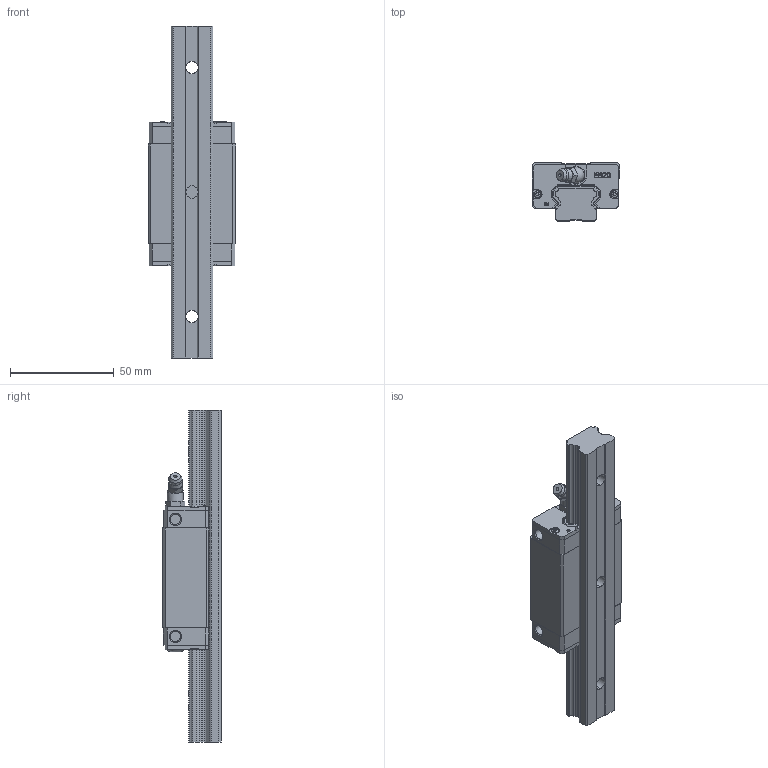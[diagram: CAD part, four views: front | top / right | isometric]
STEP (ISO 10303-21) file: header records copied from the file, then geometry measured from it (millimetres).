
FILE_DESCRIPTION(/* description */ (''),/* implementation_level */ '2;1');
FILE_NAME(/* name */ 'EBH20CA.stp',/* time_stamp */ '2024-09-29T20:38:11+08:00',/* author */ (''),/* organization */ (''),/* preprocessor_version */ 'ST-DEVELOPER v16.7',/* originating_system */ 'SIEMENS PLM Software NX 12.0',/* authorisation */ '');
FILE_SCHEMA (('AUTOMOTIVE_DESIGN { 1 0 10303 214 3 1 1 1 }'));
Products named in the file (3): EBH20CA; EBR20; EBH20CA_stp
Assembly tree (2 placements, depth 2):
  EBH20CA_stp
    EBR20
    EBH20CA
Bounding box: 42 x 28 x 160 mm (x, y, z)
Volume: 92223.4 mm3; surface area: 27160.7 mm2
Topology: 2 solids, 3 shells, 859 faces, 2336 edges, 1532 vertices
Faces by surface type: plane 497, extrusion 141, cylinder 134, cone 46, bspline 29, torus 11, sphere 1
Full cylindrical faces by diameter (mm): 3 x1, 3.7 x1, 5 x4, 7.8 x1
Entity records: 48043 total; most frequent: CARTESIAN_POINT 21948, ORIENTED_EDGE 4572, DIRECTION 3692, EDGE_CURVE 2286, VECTOR 1546, VERTEX_POINT 1513, LINE 1405, AXIS2_PLACEMENT_3D 1073
